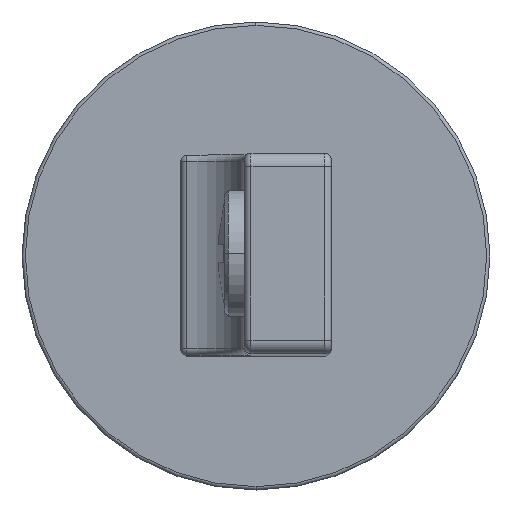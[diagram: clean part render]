
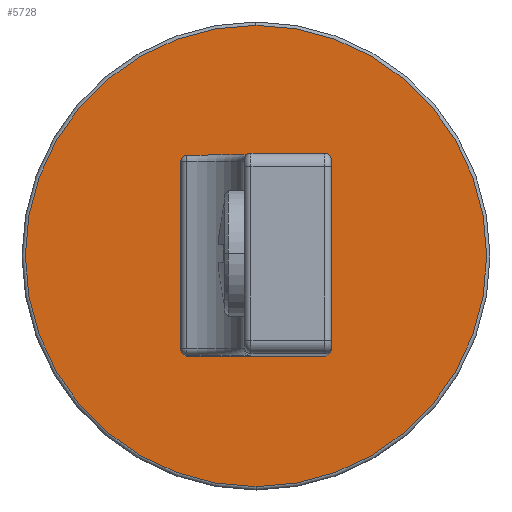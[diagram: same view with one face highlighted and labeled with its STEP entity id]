
A CAD part, top view. The second image highlights one B-rep face of the part: STEP entity #5728.
In plain terms, the highlighted planar face has unit normal (0, 0, 1) as drawn and (0, 0, -1) by its records, which use the part's own axes.
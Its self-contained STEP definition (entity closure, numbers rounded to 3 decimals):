
#61 = EDGE_CURVE ( 'NONE', #996, #6869, #6396, .T. ) ;
#229 = DIRECTION ( 'NONE',  ( 0., 0., 1. ) ) ;
#233 = CARTESIAN_POINT ( 'NONE',  ( -13.6, 0., 0. ) ) ;
#310 = EDGE_CURVE ( 'NONE', #5991, #6427, #1276, .T. ) ;
#397 = DIRECTION ( 'NONE',  ( 1., 0., 0. ) ) ;
#475 = EDGE_LOOP ( 'NONE', ( #6044, #2868 ) ) ;
#580 = DIRECTION ( 'NONE',  ( 0., 0., 1. ) ) ;
#581 = CIRCLE ( 'NONE', #4422, 34.5 ) ;
#650 = CARTESIAN_POINT ( 'NONE',  ( 12., 0., 0. ) ) ;
#755 = CARTESIAN_POINT ( 'NONE',  ( 0., 0., 0. ) ) ;
#795 = AXIS2_PLACEMENT_3D ( 'NONE', #4211, #1541, #934 ) ;
#909 = CIRCLE ( 'NONE', #795, 1.6 ) ;
#922 = CARTESIAN_POINT ( 'NONE',  ( -7.75, 0., 0. ) ) ;
#934 = DIRECTION ( 'NONE',  ( 1., 0., 0. ) ) ;
#996 = VERTEX_POINT ( 'NONE', #6181 ) ;
#1000 = DIRECTION ( 'NONE',  ( 0., 0., 1. ) ) ;
#1227 = VERTEX_POINT ( 'NONE', #4255 ) ;
#1276 = CIRCLE ( 'NONE', #2309, 7.75 ) ;
#1349 = CARTESIAN_POINT ( 'NONE',  ( -12., 0., 0. ) ) ;
#1397 = EDGE_LOOP ( 'NONE', ( #5740, #3301 ) ) ;
#1438 = VERTEX_POINT ( 'NONE', #2301 ) ;
#1541 = DIRECTION ( 'NONE',  ( 0., 0., 1. ) ) ;
#1616 = FACE_BOUND ( 'NONE', #2370, .T. ) ;
#1650 = DIRECTION ( 'NONE',  ( 1., 0., 0. ) ) ;
#1784 = DIRECTION ( 'NONE',  ( 1., 0., 0. ) ) ;
#1824 = DIRECTION ( 'NONE',  ( 0., 0., 1. ) ) ;
#1872 = ORIENTED_EDGE ( 'NONE', *, *, #6773, .T. ) ;
#2010 = ORIENTED_EDGE ( 'NONE', *, *, #4859, .T. ) ;
#2038 = CARTESIAN_POINT ( 'NONE',  ( 0., 0., 0. ) ) ;
#2113 = FACE_OUTER_BOUND ( 'NONE', #475, .T. ) ;
#2145 = CIRCLE ( 'NONE', #3361, 7.75 ) ;
#2301 = CARTESIAN_POINT ( 'NONE',  ( 13.6, 0., 0. ) ) ;
#2309 = AXIS2_PLACEMENT_3D ( 'NONE', #6122, #580, #1784 ) ;
#2370 = EDGE_LOOP ( 'NONE', ( #2010, #4530 ) ) ;
#2501 = DIRECTION ( 'NONE',  ( 0., 0., -1. ) ) ;
#2628 = AXIS2_PLACEMENT_3D ( 'NONE', #650, #2816, #4971 ) ;
#2816 = DIRECTION ( 'NONE',  ( 0., 0., 1. ) ) ;
#2868 = ORIENTED_EDGE ( 'NONE', *, *, #4898, .T. ) ;
#2917 = DIRECTION ( 'NONE',  ( 1., 0., 0. ) ) ;
#3003 = AXIS2_PLACEMENT_3D ( 'NONE', #2038, #6529, #1650 ) ;
#3031 = CARTESIAN_POINT ( 'NONE',  ( 0., 0., 0. ) ) ;
#3183 = CIRCLE ( 'NONE', #3292, 1.6 ) ;
#3292 = AXIS2_PLACEMENT_3D ( 'NONE', #1349, #1824, #3516 ) ;
#3301 = ORIENTED_EDGE ( 'NONE', *, *, #3449, .T. ) ;
#3361 = AXIS2_PLACEMENT_3D ( 'NONE', #3654, #1000, #397 ) ;
#3449 = EDGE_CURVE ( 'NONE', #6427, #5991, #2145, .T. ) ;
#3516 = DIRECTION ( 'NONE',  ( 1., 0., 0. ) ) ;
#3571 = CIRCLE ( 'NONE', #6761, 1.6 ) ;
#3654 = CARTESIAN_POINT ( 'NONE',  ( 0., 0., 0. ) ) ;
#3693 = CARTESIAN_POINT ( 'NONE',  ( 7.75, 0., 0. ) ) ;
#3768 = AXIS2_PLACEMENT_3D ( 'NONE', #755, #6165, #2917 ) ;
#3771 = FACE_BOUND ( 'NONE', #1397, .T. ) ;
#4211 = CARTESIAN_POINT ( 'NONE',  ( 12., 0., 0. ) ) ;
#4246 = FACE_BOUND ( 'NONE', #4636, .T. ) ;
#4255 = CARTESIAN_POINT ( 'NONE',  ( -10.4, 0., 0. ) ) ;
#4285 = ORIENTED_EDGE ( 'NONE', *, *, #5900, .T. ) ;
#4422 = AXIS2_PLACEMENT_3D ( 'NONE', #3031, #2501, #4651 ) ;
#4530 = ORIENTED_EDGE ( 'NONE', *, *, #5145, .T. ) ;
#4636 = EDGE_LOOP ( 'NONE', ( #1872, #4285 ) ) ;
#4651 = DIRECTION ( 'NONE',  ( 1., 0., 0. ) ) ;
#4683 = VERTEX_POINT ( 'NONE', #233 ) ;
#4859 = EDGE_CURVE ( 'NONE', #1438, #5861, #909, .T. ) ;
#4898 = EDGE_CURVE ( 'NONE', #6869, #996, #581, .T. ) ;
#4971 = DIRECTION ( 'NONE',  ( 1., 0., 0. ) ) ;
#5112 = CARTESIAN_POINT ( 'NONE',  ( 10.4, 0., 0. ) ) ;
#5145 = EDGE_CURVE ( 'NONE', #5861, #1438, #5342, .T. ) ;
#5250 = CARTESIAN_POINT ( 'NONE',  ( -34.5, 0., 0. ) ) ;
#5342 = CIRCLE ( 'NONE', #2628, 1.6 ) ;
#5657 = DIRECTION ( 'NONE',  ( 1., 0., 0. ) ) ;
#5692 = CARTESIAN_POINT ( 'NONE',  ( -12., 0., 0. ) ) ;
#5728 = ADVANCED_FACE ( 'NONE', ( #2113, #1616, #4246, #3771 ), #5907, .F. ) ;
#5740 = ORIENTED_EDGE ( 'NONE', *, *, #310, .T. ) ;
#5861 = VERTEX_POINT ( 'NONE', #5112 ) ;
#5900 = EDGE_CURVE ( 'NONE', #4683, #1227, #3571, .T. ) ;
#5907 = PLANE ( 'NONE',  #3003 ) ;
#5991 = VERTEX_POINT ( 'NONE', #3693 ) ;
#6044 = ORIENTED_EDGE ( 'NONE', *, *, #61, .T. ) ;
#6122 = CARTESIAN_POINT ( 'NONE',  ( 0., 0., 0. ) ) ;
#6165 = DIRECTION ( 'NONE',  ( 0., 0., -1. ) ) ;
#6181 = CARTESIAN_POINT ( 'NONE',  ( 34.5, 0., 0. ) ) ;
#6396 = CIRCLE ( 'NONE', #3768, 34.5 ) ;
#6427 = VERTEX_POINT ( 'NONE', #922 ) ;
#6529 = DIRECTION ( 'NONE',  ( 0., 0., 1. ) ) ;
#6761 = AXIS2_PLACEMENT_3D ( 'NONE', #5692, #229, #5657 ) ;
#6773 = EDGE_CURVE ( 'NONE', #1227, #4683, #3183, .T. ) ;
#6869 = VERTEX_POINT ( 'NONE', #5250 ) ;
